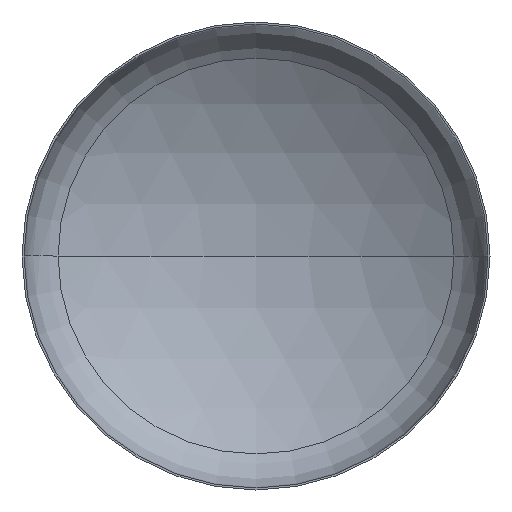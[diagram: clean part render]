
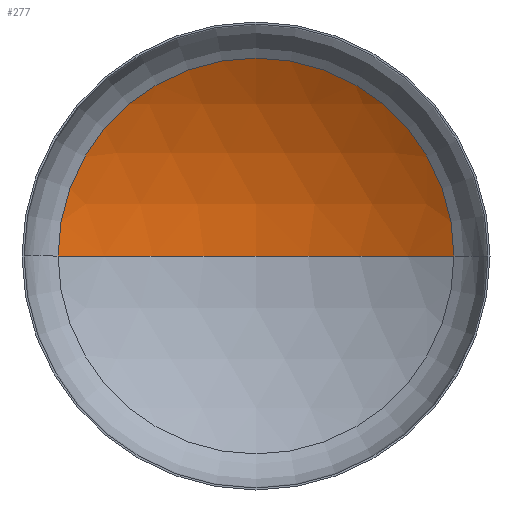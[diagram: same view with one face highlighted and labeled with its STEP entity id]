
A CAD part, front view. The second image highlights one B-rep face of the part: STEP entity #277.
In plain terms, the highlighted spherical face has radius 4800 mm.
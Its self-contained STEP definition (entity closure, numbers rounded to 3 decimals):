
#2 = VERTEX_POINT ( 'NONE', #144 ) ;
#12 = CARTESIAN_POINT ( 'NONE',  ( 0., 870.105, 0. ) ) ;
#16 = ORIENTED_EDGE ( 'NONE', *, *, #214, .T. ) ;
#23 = ORIENTED_EDGE ( 'NONE', *, *, #219, .T. ) ;
#24 = VERTEX_POINT ( 'NONE', #97 ) ;
#29 = CARTESIAN_POINT ( 'NONE',  ( 0., -3203.955, 0. ) ) ;
#50 = ORIENTED_EDGE ( 'NONE', *, *, #227, .F. ) ;
#71 = VERTEX_POINT ( 'NONE', #254 ) ;
#74 = AXIS2_PLACEMENT_3D ( 'NONE', #269, #378, #293 ) ;
#94 = EDGE_LOOP ( 'NONE', ( #50, #23, #16 ) ) ;
#97 = CARTESIAN_POINT ( 'NONE',  ( 2538.116, 870.105, 0. ) ) ;
#117 = DIRECTION ( 'NONE',  ( -1., 0., 0. ) ) ;
#141 = AXIS2_PLACEMENT_3D ( 'NONE', #240, #395, #266 ) ;
#143 = AXIS2_PLACEMENT_3D ( 'NONE', #29, #290, #117 ) ;
#144 = CARTESIAN_POINT ( 'NONE',  ( 0., 1596.045, 0. ) ) ;
#149 = AXIS2_PLACEMENT_3D ( 'NONE', #12, #360, #242 ) ;
#164 = CIRCLE ( 'NONE', #143, 4800. ) ;
#211 = SPHERICAL_SURFACE ( 'NONE', #74, 4800. ) ;
#214 = EDGE_CURVE ( 'NONE', #24, #71, #241, .T. ) ;
#219 = EDGE_CURVE ( 'NONE', #2, #24, #164, .T. ) ;
#227 = EDGE_CURVE ( 'NONE', #2, #71, #232, .T. ) ;
#232 = CIRCLE ( 'NONE', #141, 4800. ) ;
#240 = CARTESIAN_POINT ( 'NONE',  ( 0., -3203.955, 0. ) ) ;
#241 = CIRCLE ( 'NONE', #149, 2538.116 ) ;
#242 = DIRECTION ( 'NONE',  ( 1., 0., 0. ) ) ;
#254 = CARTESIAN_POINT ( 'NONE',  ( -2538.116, 870.105, 0. ) ) ;
#266 = DIRECTION ( 'NONE',  ( 1., 0., 0. ) ) ;
#269 = CARTESIAN_POINT ( 'NONE',  ( 0., -3203.955, 0. ) ) ;
#277 = ADVANCED_FACE ( 'NONE', ( #397 ), #211, .F. ) ;
#290 = DIRECTION ( 'NONE',  ( 0., 0., -1. ) ) ;
#293 = DIRECTION ( 'NONE',  ( -1., 0., 0. ) ) ;
#360 = DIRECTION ( 'NONE',  ( 0., -1., 0. ) ) ;
#378 = DIRECTION ( 'NONE',  ( 0., 0., -1. ) ) ;
#395 = DIRECTION ( 'NONE',  ( 0., 0., 1. ) ) ;
#397 = FACE_OUTER_BOUND ( 'NONE', #94, .T. ) ;
